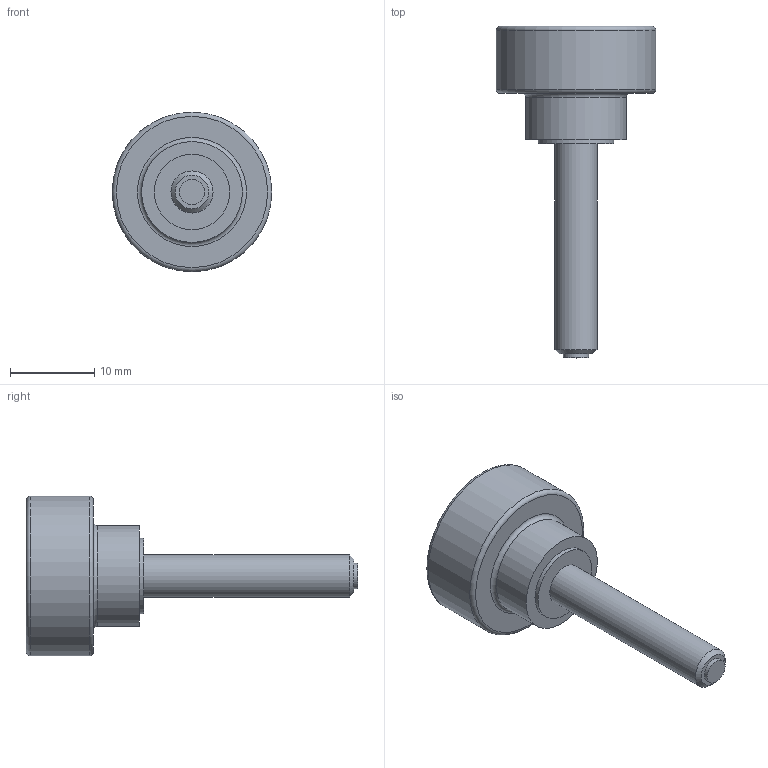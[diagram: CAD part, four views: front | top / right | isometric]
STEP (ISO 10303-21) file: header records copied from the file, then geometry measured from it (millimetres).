
FILE_DESCRIPTION( ( 'STEP AP203' ), '1' );
FILE_NAME( 'C:/Temp/Ganter_Step_05_03_2020/data/2_2/gn_421_10/Hollow knurled knob, with tip GN 421.10-M5-25-MS.stp', '2020-03-05T12:25:31', ( 'License CC BY-ND 4.0' ), ( 'CADENAS' ), ' ', 'PARTsolutions', ' ' );
FILE_SCHEMA( ( 'CONFIG_CONTROL_DESIGN' ) );
Length unit declared in the file: millimetre
Products named in the file (1): _Hollow knurled knob, with tip GN 421.10-M5-25-MS
Bounding box: 19 x 39.5 x 19 mm (x, y, z)
Volume: 2405.2 mm3; surface area: 1926.4 mm2
Topology: 1 solids, 1 shells, 19 faces, 30 edges, 19 vertices
Faces by surface type: plane 8, cylinder 7, torus 3, cone 1
Full cylindrical faces by diameter (mm): 3 x1, 5 x1, 8 x1, 9 x1, 12 x1, 16 x1, 19 x1
Entity records: 418 total; most frequent: DIRECTION 76, CARTESIAN_POINT 56, AXIS2_PLACEMENT_3D 38, EDGE_LOOP 36, ORIENTED_EDGE 36, FACE_OUTER_BOUND 29, ADVANCED_FACE 19, EDGE_CURVE 18
